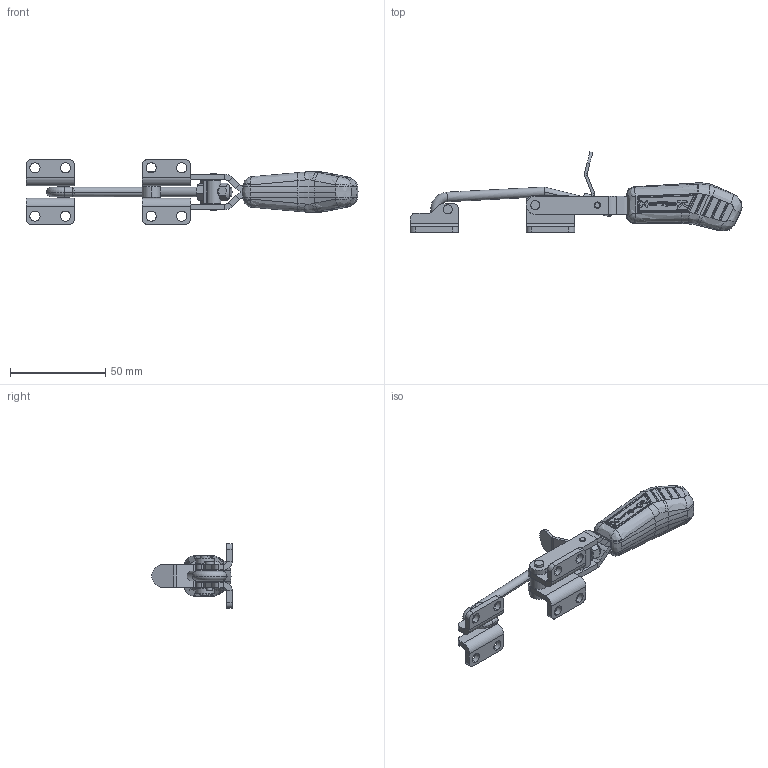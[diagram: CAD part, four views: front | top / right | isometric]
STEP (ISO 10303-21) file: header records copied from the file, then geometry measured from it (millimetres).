
FILE_DESCRIPTION (( 'STEP AP203' ), '1' );
FILE_NAME ('KF-033 D.STEP', '2014-08-21T17:55:52', ( 'Ricardo' ), ( '' ), 'SwSTEP 2.0', 'SolidWorks 2013', '' );
FILE_SCHEMA (( 'CONFIG_CONTROL_DESIGN' ));
Length unit declared in the file: millimetre
Products named in the file (16): 3670000096; 11.50013; 15.10067; 11.50005; KF-033 D; 05.20007; 3670000097; 02.12073_Direita; 07.60005; 02.12073_Esquerda; 15.10066_Direita; 01.10107; 15.10066_Esquerda; 03.20053; 05.20036; 16.20080
Assembly tree (16 placements, depth 2):
  KF-033 D
    02.12073_Direita
    02.12073_Esquerda
    01.10107  x2
    03.20053
    16.20080
    11.50013
    11.50005
    05.20007
    3670000097
    07.60005
    15.10066_Direita
    15.10066_Esquerda
    05.20036
    3670000096
    15.10067
Bounding box: 174.02 x 42.22 x 34 mm (x, y, z)
Volume: 33454.3 mm3; surface area: 22769.5 mm2
Topology: 16 solids, 16 shells, 921 faces, 2300 edges, 1428 vertices
Faces by surface type: cylinder 287, bspline 269, plane 263, sphere 52, cone 46, torus 4
Entity records: 35041 total; most frequent: CARTESIAN_POINT 14611, ORIENTED_EDGE 4444, DIRECTION 3169, EDGE_CURVE 2222, VERTEX_POINT 1384, AXIS2_PLACEMENT_3D 1194, EDGE_LOOP 952, ADVANCED_FACE 889
